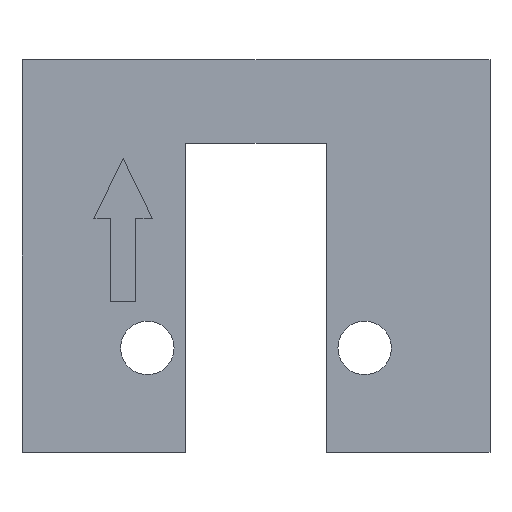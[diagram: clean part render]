
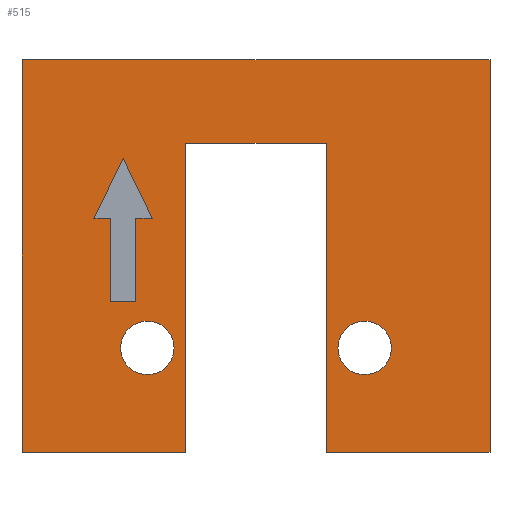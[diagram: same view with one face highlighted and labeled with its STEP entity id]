
A CAD part, front view. The second image highlights one B-rep face of the part: STEP entity #515.
In plain terms, the highlighted planar face has unit normal (0, -1, 0).
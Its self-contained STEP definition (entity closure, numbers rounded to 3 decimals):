
#19=FACE_BOUND('',#80,.T.);
#20=FACE_BOUND('',#81,.T.);
#21=FACE_BOUND('',#82,.T.);
#24=CIRCLE('',#556,1.6);
#25=CIRCLE('',#558,1.6);
#51=FACE_OUTER_BOUND('',#79,.T.);
#79=EDGE_LOOP('',(#449,#450,#451,#452,#453,#454,#455,#456));
#80=EDGE_LOOP('',(#457,#458,#459,#460,#461,#462,#463));
#81=EDGE_LOOP('',(#464));
#82=EDGE_LOOP('',(#465));
#83=LINE('',#697,#148);
#87=LINE('',#705,#152);
#90=LINE('',#711,#155);
#93=LINE('',#717,#158);
#96=LINE('',#723,#161);
#99=LINE('',#729,#164);
#102=LINE('',#734,#167);
#106=LINE('',#744,#171);
#111=LINE('',#754,#176);
#116=LINE('',#764,#181);
#123=LINE('',#782,#188);
#128=LINE('',#791,#193);
#143=LINE('',#826,#208);
#145=LINE('',#830,#210);
#147=LINE('',#833,#212);
#148=VECTOR('',#570,10.);
#152=VECTOR('',#576,10.);
#155=VECTOR('',#581,10.);
#158=VECTOR('',#586,10.);
#161=VECTOR('',#591,10.);
#164=VECTOR('',#596,10.);
#167=VECTOR('',#601,10.);
#171=VECTOR('',#609,10.);
#176=VECTOR('',#616,10.);
#181=VECTOR('',#623,10.);
#188=VECTOR('',#638,10.);
#193=VECTOR('',#645,10.);
#208=VECTOR('',#682,10.);
#210=VECTOR('',#686,10.);
#212=VECTOR('',#690,10.);
#213=VERTEX_POINT('',#695);
#214=VERTEX_POINT('',#696);
#217=VERTEX_POINT('',#704);
#219=VERTEX_POINT('',#710);
#221=VERTEX_POINT('',#716);
#223=VERTEX_POINT('',#722);
#225=VERTEX_POINT('',#728);
#229=VERTEX_POINT('',#741);
#230=VERTEX_POINT('',#743);
#234=VERTEX_POINT('',#753);
#238=VERTEX_POINT('',#763);
#245=VERTEX_POINT('',#781);
#248=VERTEX_POINT('',#789);
#253=VERTEX_POINT('',#807);
#254=VERTEX_POINT('',#811);
#257=VERTEX_POINT('',#825);
#258=VERTEX_POINT('',#829);
#259=EDGE_CURVE('',#213,#214,#83,.T.);
#263=EDGE_CURVE('',#217,#213,#87,.T.);
#266=EDGE_CURVE('',#219,#217,#90,.T.);
#269=EDGE_CURVE('',#221,#219,#93,.T.);
#272=EDGE_CURVE('',#223,#221,#96,.T.);
#275=EDGE_CURVE('',#225,#223,#99,.T.);
#278=EDGE_CURVE('',#214,#225,#102,.T.);
#282=EDGE_CURVE('',#230,#229,#106,.T.);
#287=EDGE_CURVE('',#234,#230,#111,.T.);
#292=EDGE_CURVE('',#238,#234,#116,.T.);
#301=EDGE_CURVE('',#238,#245,#123,.T.);
#306=EDGE_CURVE('',#248,#229,#128,.T.);
#314=EDGE_CURVE('',#253,#253,#24,.T.);
#316=EDGE_CURVE('',#254,#254,#25,.T.);
#323=EDGE_CURVE('',#245,#257,#143,.T.);
#325=EDGE_CURVE('',#258,#248,#145,.T.);
#327=EDGE_CURVE('',#257,#258,#147,.T.);
#449=ORIENTED_EDGE('',*,*,#282,.T.);
#450=ORIENTED_EDGE('',*,*,#306,.F.);
#451=ORIENTED_EDGE('',*,*,#325,.F.);
#452=ORIENTED_EDGE('',*,*,#327,.F.);
#453=ORIENTED_EDGE('',*,*,#323,.F.);
#454=ORIENTED_EDGE('',*,*,#301,.F.);
#455=ORIENTED_EDGE('',*,*,#292,.T.);
#456=ORIENTED_EDGE('',*,*,#287,.T.);
#457=ORIENTED_EDGE('',*,*,#259,.T.);
#458=ORIENTED_EDGE('',*,*,#278,.T.);
#459=ORIENTED_EDGE('',*,*,#275,.T.);
#460=ORIENTED_EDGE('',*,*,#272,.T.);
#461=ORIENTED_EDGE('',*,*,#269,.T.);
#462=ORIENTED_EDGE('',*,*,#266,.T.);
#463=ORIENTED_EDGE('',*,*,#263,.T.);
#464=ORIENTED_EDGE('',*,*,#314,.T.);
#465=ORIENTED_EDGE('',*,*,#316,.T.);
#489=PLANE('',#565);
#515=ADVANCED_FACE('',(#51,#19,#20,#21),#489,.F.);
#556=AXIS2_PLACEMENT_3D('',#808,#661,#662);
#558=AXIS2_PLACEMENT_3D('',#812,#666,#667);
#565=AXIS2_PLACEMENT_3D('',#834,#691,#692);
#570=DIRECTION('',(0.438,0.,-0.899));
#576=DIRECTION('',(0.438,0.,0.899));
#581=DIRECTION('',(-1.,0.,0.));
#586=DIRECTION('',(0.,0.,1.));
#591=DIRECTION('',(-1.,0.,0.));
#596=DIRECTION('',(0.,0.,-1.));
#601=DIRECTION('',(-1.,0.,0.));
#609=DIRECTION('',(0.,0.,-1.));
#616=DIRECTION('',(1.,0.,0.));
#623=DIRECTION('',(0.,0.,1.));
#638=DIRECTION('',(-1.,0.,0.));
#645=DIRECTION('',(-1.,0.,0.));
#661=DIRECTION('center_axis',(0.,1.,0.));
#662=DIRECTION('ref_axis',(1.,0.,0.));
#666=DIRECTION('center_axis',(0.,1.,0.));
#667=DIRECTION('ref_axis',(1.,0.,0.));
#682=DIRECTION('',(0.,0.,1.));
#686=DIRECTION('',(0.,0.,-1.));
#690=DIRECTION('',(1.,0.,0.));
#691=DIRECTION('center_axis',(0.,1.,0.));
#692=DIRECTION('ref_axis',(0.,0.,1.));
#695=CARTESIAN_POINT('',(-7.95,0.,5.847));
#696=CARTESIAN_POINT('',(-6.2,0.,2.25));
#697=CARTESIAN_POINT('',(-6.039,0.,1.919));
#704=CARTESIAN_POINT('',(-9.7,0.,2.25));
#705=CARTESIAN_POINT('',(-9.214,0.,3.248));
#710=CARTESIAN_POINT('',(-8.7,0.,2.25));
#711=CARTESIAN_POINT('',(-4.35,0.,2.25));
#716=CARTESIAN_POINT('',(-8.7,0.,-2.75));
#717=CARTESIAN_POINT('',(-8.7,0.,-1.375));
#722=CARTESIAN_POINT('',(-7.2,0.,-2.75));
#723=CARTESIAN_POINT('',(-3.6,0.,-2.75));
#728=CARTESIAN_POINT('',(-7.2,0.,2.25));
#729=CARTESIAN_POINT('',(-7.2,0.,1.125));
#734=CARTESIAN_POINT('',(-3.1,0.,2.25));
#741=CARTESIAN_POINT('',(4.2,0.,-11.75));
#743=CARTESIAN_POINT('',(4.2,0.,6.75));
#744=CARTESIAN_POINT('',(4.2,0.,3.375));
#753=CARTESIAN_POINT('',(-4.2,0.,6.75));
#754=CARTESIAN_POINT('',(-2.1,0.,6.75));
#763=CARTESIAN_POINT('',(-4.2,0.,-11.75));
#764=CARTESIAN_POINT('',(-4.2,0.,-5.875));
#781=CARTESIAN_POINT('',(-14.,0.,-11.75));
#782=CARTESIAN_POINT('',(14.,0.,-11.75));
#789=CARTESIAN_POINT('',(14.,0.,-11.75));
#791=CARTESIAN_POINT('',(14.,0.,-11.75));
#807=CARTESIAN_POINT('',(-8.1,0.,-5.5));
#808=CARTESIAN_POINT('Origin',(-6.5,0.,-5.5));
#811=CARTESIAN_POINT('',(4.9,0.,-5.5));
#812=CARTESIAN_POINT('Origin',(6.5,0.,-5.5));
#825=CARTESIAN_POINT('',(-14.,0.,11.75));
#826=CARTESIAN_POINT('',(-14.,0.,-11.75));
#829=CARTESIAN_POINT('',(14.,0.,11.75));
#830=CARTESIAN_POINT('',(14.,0.,11.75));
#833=CARTESIAN_POINT('',(-14.,0.,11.75));
#834=CARTESIAN_POINT('Origin',(0.,0.,0.));
